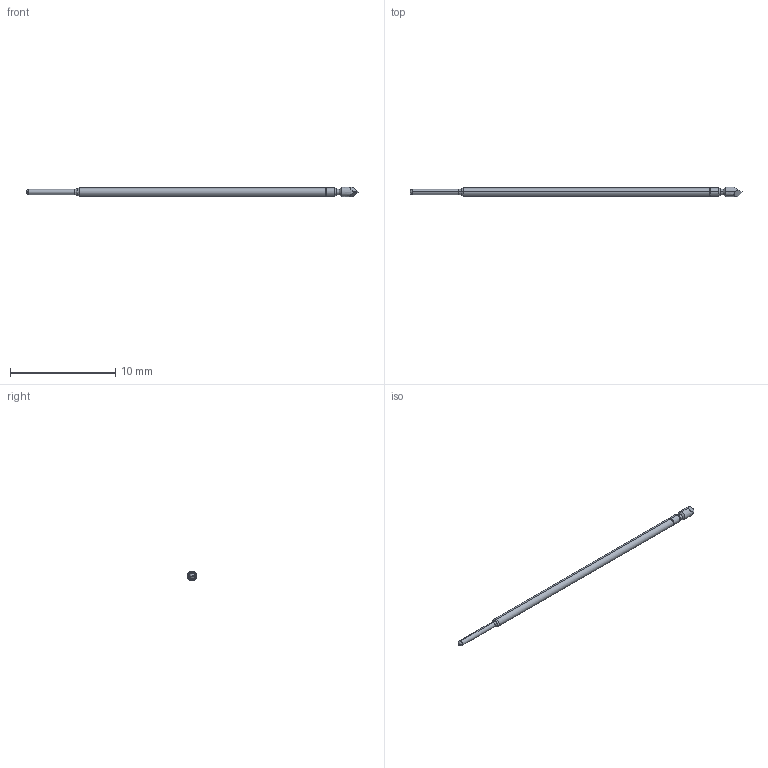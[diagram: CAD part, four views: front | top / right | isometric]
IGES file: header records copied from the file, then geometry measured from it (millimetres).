
Start section: SolidWorks IGES file using analytic representation for surfaces
Global section: file name: C:\Documents and Settings\mrumschlag\Desktop\changes\new\test\T38 FULL.IGS; native system: SolidWorks 2011; preprocessor: SolidWorks 2011; author: mrumschlag; date: 110630.142730; units: inch
Bounding box: 31.58 x 0.89 x 0.89 mm (x, y, z)
Surface area: 72 mm2 (no closed solid volume)
Topology: 0 solids, 0 shells, 30 faces, 184 edges, 182 vertices
Faces by surface type: revolution 18, bspline 12
